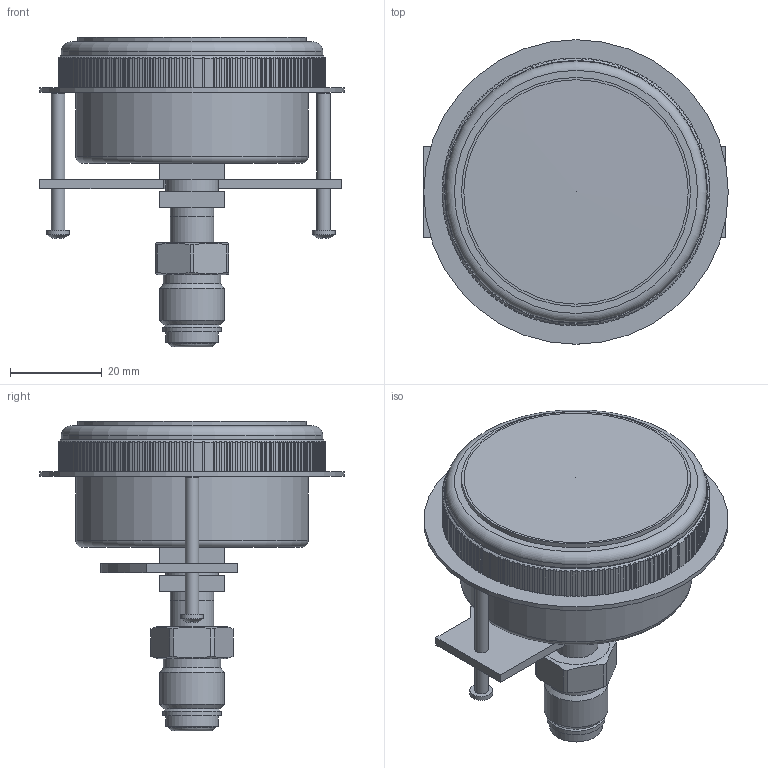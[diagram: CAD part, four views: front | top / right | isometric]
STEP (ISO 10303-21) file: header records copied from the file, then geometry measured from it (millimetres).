
FILE_DESCRIPTION(/* description */ (''),/* implementation_level */ '2;1');
FILE_NAME(/* name */ 'P800_50PI_CENTER BACK, FLUSH MOUNT_SWIVEL(M).stp',/* time_stamp */ '2025-03-27T08:53:35+09:00',/* author */ ('wise-209'),/* organization */ (''),/* preprocessor_version */ 'ST-DEVELOPER v19.2',/* originating_system */ 'Autodesk Inventor 2024',/* authorisation */ '');
FILE_SCHEMA (('AUTOMOTIVE_DESIGN { 1 0 10303 214 3 1 1 }'));
Length unit declared in the file: millimetre
Products named in the file (7): P810_50mm_I Type_SF; COVER; SHANK; RING; BRACKET; SCREW; UNF-MALE
Assembly tree (7 placements, depth 2):
  P810_50mm_I Type_SF
    COVER
    SHANK
    RING
    BRACKET
    SCREW  x2
    UNF-MALE
Bounding box: 66.5 x 66.5 x 67.68 mm (x, y, z)
Volume: 72175.4 mm3; surface area: 25228.5 mm2
Topology: 8 solids, 8 shells, 698 faces, 1999 edges, 1330 vertices
Faces by surface type: plane 507, cylinder 172, cone 10, torus 7, sphere 2
Full cylindrical faces by diameter (mm): 3 x4, 5 x2, 6.3 x1, 7.8 x1, 9.53 x2, 11.4 x1, 11.5 x1, 12.5 x1, 12.7 x1, 14 x1, 50 x1, 50.8 x1, 51 x1, 57.1 x1, 66.5 x1
Entity records: 22894 total; most frequent: CARTESIAN_POINT 4895, ORIENTED_EDGE 3900, DIRECTION 3555, EDGE_CURVE 1950, LINE 1409, VECTOR 1409, VERTEX_POINT 1298, AXIS2_PLACEMENT_3D 1073
